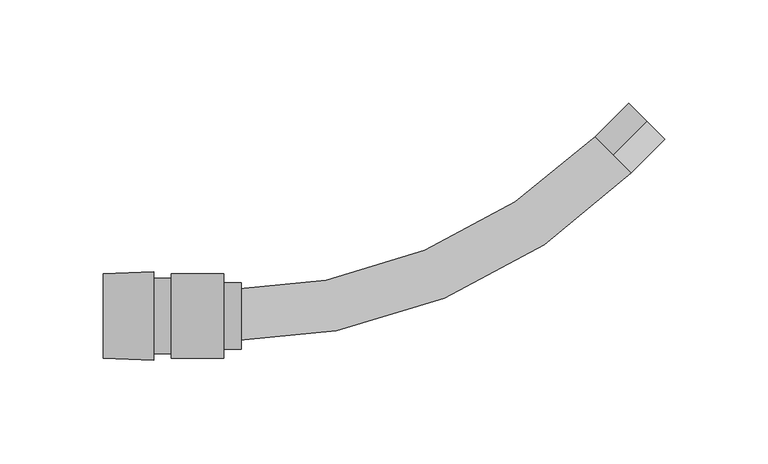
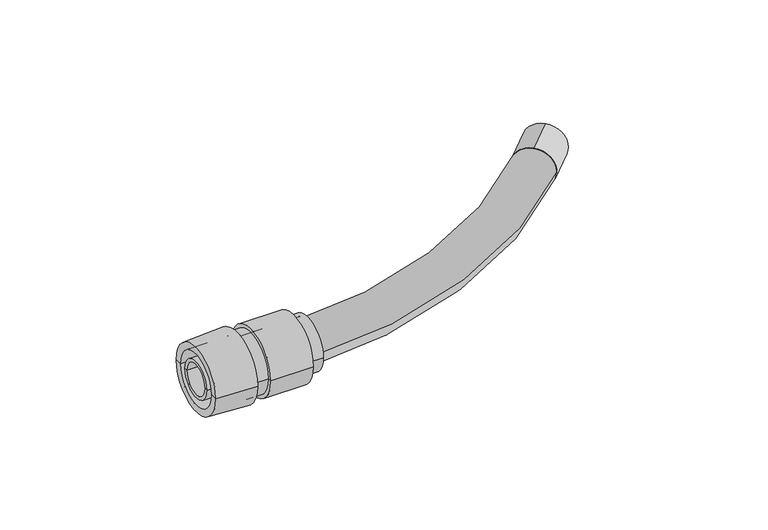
"""IFC4 building model written with IfcOpenShell, lengths in millimetres: cable carrier fitting geometry, КНС_МуфтаГибкаяТрубаКоробка_IP65_DKC : Коробка."""

from ifc_helpers import new_model, si_unit, point, frame, frame_2d, origin, place, context, project, spatial, polyline, circle_curve, ellipse_curve, trimmed, segment, composite_curve, outline, extrude, source, transform, mapped, element, save
from ifc_brep_helpers import plane_surface, cylinder_surface, revolved_surface, advanced_brep


def cable_carrier_fitting_36a5ff78(model_context):
    return source(origin(), model_context, "Body", "SolidModel", [
        advanced_brep(
        [(-102.2525484, -14.0853846, 0.0), (-102.2525484, 14.0853846, 0.0), (-144.7525484, 14.0853846, 0.0), (-144.7525484, -14.0853846, 0.0), (-102.2525484, -16.15, 0.0), (-102.2525484, 16.15, 0.0), (-110.7525484, -16.15, 0.0), (-110.7525484, 16.15, 0.0), (-110.7525484, -20.5, 0.0), (-110.7525484, 20.5, 0.0), (-136.2525484, -20.5, 0.0), (-136.2525484, 20.5, 0.0), (-136.2525484, -18.325, 0.0), (-136.2525484, 18.325, 0.0), (-144.7525484, -18.325, 0.0), (-144.7525484, 18.325, 0.0)],
        [
            (0, 1, circle_curve(frame((-102.2525484, 0.0, 0.0), z_axis=(1.0, 0.0, 0.0), x_axis=(0.0, 1.0, 0.0)), 14.0853846)),
            (1, 2),
            (2, 3, circle_curve(frame((-144.7525484, 0.0, 0.0), z_axis=(-1.0, 0.0, 0.0), x_axis=(0.0, 1.0, 0.0)), 14.0853846)),
            (3, 0),
            (1, 0, circle_curve(frame((-102.2525484, 0.0, 0.0), z_axis=(1.0, 0.0, 0.0), x_axis=(0.0, 1.0, 0.0)), 14.0853846)),
            (3, 2, circle_curve(frame((-144.7525484, 0.0, 0.0), z_axis=(-1.0, 0.0, 0.0), x_axis=(0.0, 1.0, 0.0)), 14.0853846)),
            (4, 5, circle_curve(frame((-102.2525484, 0.0, 0.0), z_axis=(1.0, 0.0, 0.0), x_axis=(0.0, 1.0, 0.0)), 16.15)),
            (5, 1),
            (0, 4),
            (5, 4, circle_curve(frame((-102.2525484, 0.0, 0.0), z_axis=(1.0, 0.0, 0.0), x_axis=(0.0, 1.0, 0.0)), 16.15)),
            (6, 7, circle_curve(frame((-110.7525484, 0.0, 0.0), z_axis=(1.0, 0.0, 0.0), x_axis=(0.0, 1.0, 0.0)), 16.15)),
            (7, 5),
            (4, 6),
            (7, 6, circle_curve(frame((-110.7525484, 0.0, 0.0), z_axis=(1.0, 0.0, 0.0), x_axis=(0.0, 1.0, 0.0)), 16.15)),
            (8, 9, circle_curve(frame((-110.7525484, 0.0, 0.0), z_axis=(1.0, 0.0, 0.0), x_axis=(0.0, 1.0, 0.0)), 20.5)),
            (9, 7),
            (6, 8),
            (9, 8, circle_curve(frame((-110.7525484, 0.0, 0.0), z_axis=(1.0, 0.0, 0.0), x_axis=(0.0, 1.0, 0.0)), 20.5)),
            (10, 11, circle_curve(frame((-136.2525484, 0.0, 0.0), z_axis=(1.0, 0.0, 0.0), x_axis=(0.0, 1.0, 0.0)), 20.5)),
            (11, 9),
            (8, 10),
            (11, 10, circle_curve(frame((-136.2525484, 0.0, 0.0), z_axis=(1.0, 0.0, 0.0), x_axis=(0.0, 1.0, 0.0)), 20.5)),
            (12, 13, circle_curve(frame((-136.2525484, 0.0, 0.0), z_axis=(1.0, 0.0, 0.0), x_axis=(0.0, 1.0, 0.0)), 18.325)),
            (13, 11),
            (10, 12),
            (13, 12, circle_curve(frame((-136.2525484, 0.0, 0.0), z_axis=(1.0, 0.0, 0.0), x_axis=(0.0, 1.0, 0.0)), 18.325)),
            (14, 15, circle_curve(frame((-144.7525484, 0.0, 0.0), z_axis=(1.0, 0.0, 0.0), x_axis=(0.0, 1.0, 0.0)), 18.325)),
            (15, 13),
            (12, 14),
            (15, 14, circle_curve(frame((-144.7525484, 0.0, 0.0), z_axis=(1.0, 0.0, 0.0), x_axis=(0.0, 1.0, 0.0)), 18.325)),
            (2, 15),
            (14, 3),
        ],
        [
            revolved_surface(polyline([(-144.75254840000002, 14.0853846, 0.0), (-102.25254840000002, 14.0853846, 0.0)]), (1386.2474516, 0.0, 0.0), (-1.0, 0.0, 0.0)),
            plane_surface(frame((-102.2525484, 0.0, 0.0), z_axis=(1.0, 0.0, 0.0), x_axis=(0.0, 1.0, 0.0))),
            cylinder_surface(frame((1386.2474516, 0.0, 0.0), z_axis=(-1.0, 0.0, 0.0), x_axis=(0.0, 1.0, 0.0)), 16.15),
            plane_surface(frame((-110.7525484, 0.0, 0.0), z_axis=(1.0, 0.0, 0.0), x_axis=(0.0, 1.0, 0.0))),
            cylinder_surface(frame((1386.2474516, 0.0, 0.0), z_axis=(-1.0, 0.0, 0.0), x_axis=(0.0, 1.0, 0.0)), 20.5),
            plane_surface(frame((-136.2525484, 0.0, 0.0), z_axis=(-1.0, 0.0, 0.0), x_axis=(0.0, 1.0, 0.0))),
            cylinder_surface(frame((1386.2474516, 0.0, 0.0), z_axis=(-1.0, 0.0, 0.0), x_axis=(0.0, 1.0, 0.0)), 18.325),
            plane_surface(frame((-144.7525484, 0.0, 0.0), z_axis=(-1.0, 0.0, 0.0), x_axis=(0.0, 1.0, 0.0))),
        ],
        [
            (0, [[1, 2, 3, 4]]),
            (0, [[5, -4, 6, -2]]),
            (1, [[7, 8, -1, 9]]),
            (1, [[10, -9, -5, -8]]),
            (2, [[11, 12, -7, 13]]),
            (2, [[14, -13, -10, -12]]),
            (3, [[15, 16, -11, 17]]),
            (3, [[18, -17, -14, -16]]),
            (4, [[19, 20, -15, 21]]),
            (4, [[22, -21, -18, -20]]),
            (5, [[23, 24, -19, 25]]),
            (5, [[26, -25, -22, -24]]),
            (6, [[27, 28, -23, 29]]),
            (6, [[30, -29, -26, -28]]),
            (7, [[-3, 31, -27, 32]]),
            (7, [[-6, -32, -30, -31]]),
        ],
    ),
        advanced_brep(
        [(-144.7525484, -21.5, 0.0), (-144.7525484, 21.5, 0.0), (-144.7525484, 16.15, 0.0), (-144.7525484, -16.15, 0.0), (-169.2525484, -20.5, 0.0), (-169.2525484, 20.5, 0.0), (-169.2525484, -16.15, 0.0), (-169.2525484, 16.15, 0.0)],
        [
            (0, 1, circle_curve(frame((-144.7525484, 0.0, 0.0), z_axis=(1.0, 0.0, 0.0), x_axis=(0.0, 1.0, 0.0)), 21.5)),
            (1, 2),
            (2, 3, circle_curve(frame((-144.7525484, 0.0, 0.0), z_axis=(-1.0, 0.0, 0.0), x_axis=(0.0, 1.0, 0.0)), 16.15)),
            (3, 0),
            (1, 0, circle_curve(frame((-144.7525484, 0.0, 0.0), z_axis=(1.0, 0.0, 0.0), x_axis=(0.0, 1.0, 0.0)), 21.5)),
            (3, 2, circle_curve(frame((-144.7525484, 0.0, 0.0), z_axis=(-1.0, 0.0, 0.0), x_axis=(0.0, 1.0, 0.0)), 16.15)),
            (4, 5, circle_curve(frame((-169.2525484, 0.0, 0.0), z_axis=(1.0, 0.0, 0.0), x_axis=(0.0, 1.0, 0.0)), 20.5)),
            (5, 1),
            (0, 4),
            (5, 4, circle_curve(frame((-169.2525484, 0.0, 0.0), z_axis=(1.0, 0.0, 0.0), x_axis=(0.0, 1.0, 0.0)), 20.5)),
            (6, 7, circle_curve(frame((-169.2525484, 0.0, 0.0), z_axis=(1.0, 0.0, 0.0), x_axis=(0.0, 1.0, 0.0)), 16.15)),
            (7, 5),
            (4, 6),
            (7, 6, circle_curve(frame((-169.2525484, 0.0, 0.0), z_axis=(1.0, 0.0, 0.0), x_axis=(0.0, 1.0, 0.0)), 16.15)),
            (2, 7),
            (6, 3),
        ],
        [
            plane_surface(frame((-144.7525484, 0.0, 0.0), z_axis=(1.0, 0.0, 0.0), x_axis=(0.0, 1.0, 0.0))),
            revolved_surface(polyline([(-144.7525484, 21.5, 0.0), (-169.2525484, 20.5, 0.0)]), (1386.2474516, 0.0, 0.0), (-1.0, 0.0, 0.0)),
            plane_surface(frame((-169.2525484, 0.0, 0.0), z_axis=(-1.0, 0.0, 0.0), x_axis=(0.0, 1.0, 0.0))),
            revolved_surface(polyline([(-169.25254840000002, 16.15, 0.0), (-144.75254840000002, 16.15, 0.0)]), (1386.2474516, 0.0, 0.0), (-1.0, 0.0, 0.0)),
        ],
        [
            (0, [[1, 2, 3, 4]]),
            (0, [[5, -4, 6, -2]]),
            (1, [[7, 8, -1, 9]]),
            (1, [[10, -9, -5, -8]]),
            (2, [[11, 12, -7, 13]]),
            (2, [[14, -13, -10, -12]]),
            (3, [[-3, 15, -11, 16]]),
            (3, [[-6, -16, -14, -15]]),
        ],
    ),
        advanced_brep(
        [(-169.2525484, -11.5, 0.0), (-169.2525484, 11.5, 0.0), (-144.7525484, 11.5, 0.0), (-144.7525484, -11.5, 0.0), (-169.2525484, -9.5, 0.0), (-169.2525484, 9.5, 0.0), (-144.7525484, -9.5, 0.0), (-144.7525484, 9.5, 0.0)],
        [
            (0, 1, circle_curve(frame((-169.2525484, 0.0, 0.0), z_axis=(1.0, 0.0, 0.0), x_axis=(0.0, 1.0, 0.0)), 11.5)),
            (1, 2),
            (2, 3, circle_curve(frame((-144.7525484, 0.0, 0.0), z_axis=(-1.0, 0.0, 0.0), x_axis=(0.0, 1.0, 0.0)), 11.5)),
            (3, 0),
            (1, 0, circle_curve(frame((-169.2525484, 0.0, 0.0), z_axis=(1.0, 0.0, 0.0), x_axis=(0.0, 1.0, 0.0)), 11.5)),
            (3, 2, circle_curve(frame((-144.7525484, 0.0, 0.0), z_axis=(-1.0, 0.0, 0.0), x_axis=(0.0, 1.0, 0.0)), 11.5)),
            (4, 5, circle_curve(frame((-169.2525484, 0.0, 0.0), z_axis=(1.0, 0.0, 0.0), x_axis=(0.0, 1.0, 0.0)), 9.5)),
            (5, 1),
            (0, 4),
            (5, 4, circle_curve(frame((-169.2525484, 0.0, 0.0), z_axis=(1.0, 0.0, 0.0), x_axis=(0.0, 1.0, 0.0)), 9.5)),
            (6, 7, circle_curve(frame((-144.7525484, 0.0, 0.0), z_axis=(1.0, 0.0, 0.0), x_axis=(0.0, 1.0, 0.0)), 9.5)),
            (7, 5),
            (4, 6),
            (7, 6, circle_curve(frame((-144.7525484, 0.0, 0.0), z_axis=(1.0, 0.0, 0.0), x_axis=(0.0, 1.0, 0.0)), 9.5)),
            (2, 7),
            (6, 3),
        ],
        [
            cylinder_surface(frame((1386.2474516, 0.0, 0.0), z_axis=(-1.0, 0.0, 0.0), x_axis=(0.0, 1.0, 0.0)), 11.5),
            plane_surface(frame((-169.2525484, 0.0, 0.0), z_axis=(-1.0, 0.0, 0.0), x_axis=(0.0, 1.0, 0.0))),
            revolved_surface(polyline([(-169.25254840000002, 9.5, 0.0), (-144.75254840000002, 9.5, 0.0)]), (1386.2474516, 0.0, 0.0), (-1.0, 0.0, 0.0)),
            plane_surface(frame((-144.7525484, 0.0, 0.0), z_axis=(1.0, 0.0, 0.0), x_axis=(0.0, 1.0, 0.0))),
        ],
        [
            (0, [[1, 2, 3, 4]]),
            (0, [[5, -4, 6, -2]]),
            (1, [[7, 8, -1, 9]]),
            (1, [[10, -9, -5, -8]]),
            (2, [[11, 12, -7, 13]]),
            (2, [[14, -13, -10, -12]]),
            (3, [[-3, 15, -11, 16]]),
            (3, [[-6, -16, -14, -15]]),
        ],
    ),
        extrude(outline(composite_curve([segment(trimmed(circle_curve(frame_2d((0.0, -12.5)), 12.5), [point((0.0, -25.0))], [point((0.0, 0.0))], False, "CARTESIAN"), True, "CONTINUOUS"), segment(trimmed(circle_curve(frame_2d((0.0, -12.5)), 12.5), [point((0.0, 0.0))], [point((0.0, -25.0))], False, "CARTESIAN"), True, "CONTINUOUS")], self_intersect=False), holes=[composite_curve([segment(trimmed(circle_curve(frame_2d((0.0, -12.5)), 11.5), [point((0.0, -24.0))], [point((0.0, -1.0))], True, "CARTESIAN"), True, "CONTINUOUS"), segment(trimmed(circle_curve(frame_2d((0.0, -12.5)), 11.5), [point((0.0, -1.0))], [point((0.0, -24.0))], True, "CARTESIAN"), True, "CONTINUOUS")], self_intersect=False)]), frame((78.313878, 78.313878, 12.5), z_axis=(0.7071067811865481, 0.707106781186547, 0.0), x_axis=(-0.707106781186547, 0.7071067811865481, 0.0)), (0.0, 0.0, 1.0), 23.0),
        advanced_brep(
        [(69.4750432, 87.1527128, 0.0), (87.1527128, 69.4750432, 0.0), (-110.7525484, 12.5, 0.0), (-110.7525484, -12.5, 0.0)],
        [
            (0, 1, circle_curve(frame((78.313878, 78.313878, 0.0), z_axis=(0.7071067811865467, 0.7071067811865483, 0.0), x_axis=(0.7071067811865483, -0.7071067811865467, 0.0)), 12.5)),
            (1, 0, circle_curve(frame((78.313878, 78.313878, 0.0), z_axis=(0.7071067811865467, 0.7071067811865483, 0.0), x_axis=(0.7071067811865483, -0.7071067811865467, 0.0)), 12.5)),
            (2, 3, circle_curve(frame((-110.7525484, 0.0, 0.0), z_axis=(-1.0, 0.0, 0.0), x_axis=(0.0, -1.0, 0.0)), 12.5)),
            (3, 2, circle_curve(frame((-110.7525484, 0.0, 0.0), z_axis=(-1.0, 0.0, 0.0), x_axis=(0.0, -1.0, 0.0)), 12.5)),
            (3, 1, circle_curve(frame((-110.7525484, 267.3803044, 0.0), z_axis=(0.0, 0.0, 1.0), x_axis=(0.7071067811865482, -0.7071067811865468, 0.0)), 279.8803044)),
            (0, 2, circle_curve(frame((-110.7525484, 267.3803044, 0.0), z_axis=(0.0, 0.0, -1.0), x_axis=(0.7071067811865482, -0.7071067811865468, 0.0)), 254.8803044)),
        ],
        [
            plane_surface(frame((78.313878, 78.313878, 0.0), z_axis=(0.7071067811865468, 0.7071067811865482, 0.0), x_axis=(0.0, 0.0, 1.0))),
            plane_surface(frame((-110.7525484, 0.0, 0.0), z_axis=(-1.0, 0.0, 0.0), x_axis=(0.0, 0.0, 1.0))),
            revolved_surface(trimmed(ellipse_curve(frame((78.313878, 78.313878, 0.0), z_axis=(0.7071067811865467, 0.7071067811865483, 0.0), x_axis=(0.7071067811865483, -0.7071067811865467, 0.0)), 12.5, 12.5), [point((69.4750432, 87.1527128, 0.0))], [point((87.1527128, 69.4750432, 0.0))], True, "CARTESIAN"), (-110.7525484, 267.3803044, 0.0), (0.0, 0.0, -1.0)),
            revolved_surface(trimmed(ellipse_curve(frame((78.313878, 78.313878, 0.0), z_axis=(0.7071067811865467, 0.7071067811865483, 0.0), x_axis=(0.7071067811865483, -0.7071067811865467, 0.0)), 12.5, 12.5), [point((87.1527128, 69.4750432, 0.0))], [point((69.4750432, 87.1527128, 0.0))], True, "CARTESIAN"), (-110.7525484, 267.3803044, 0.0), (0.0, 0.0, -1.0)),
        ],
        [
            (0, [[1, 2]]),
            (1, [[3, 4]]),
            (2, [[5, -1, 6, -4]]),
            (3, [[-6, -2, -5, -3]]),
        ],
    ),
    ])


if __name__ == "__main__":
    model = new_model("IFC4")
    model_context = context("Model", 3, world=origin())
    ifc_project = project(units=[si_unit("LENGTHUNIT", "METRE", prefix="MILLI")], contexts=[model_context])
    site = spatial("IfcSite", under=ifc_project)
    building = spatial("IfcBuilding", under=site)
    placement = place(None, origin())
    cable_carrier_fitting_shape = cable_carrier_fitting_36a5ff78(model_context)
    element("IfcCableCarrierFitting", 1, ObjectType="КНС_МуфтаГибкаяТрубаКоробка_IP65_DKC : Коробка", at=placement, inside=building, context=model_context, shape_type="MappedRepresentation", body=[
        mapped(cable_carrier_fitting_shape, transform((0.0, 0.0, 0.0), x_axis=(1.0, 0.0, 0.0), y_axis=(0.0, 1.0, 0.0), z_axis=(0.0, 0.0, 1.0))),
    ])
    save(model, "model.ifc")
